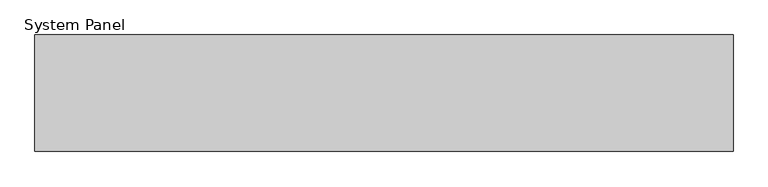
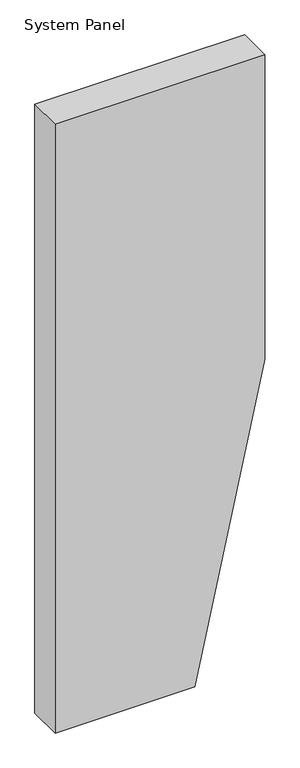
"""IFC4 building model written with IfcOpenShell, lengths in millimetres: plate geometry, System Panel : Equitilt 200mm Vertical - Plain RHEA - EPS-FR."""

from ifc_helpers import new_model, si_unit, frame, origin, place, context, project, spatial, polyline, outline, extrude, source, transform, mapped, element, save


def system_panel_820816a4(model_context):
    return source(origin(), model_context, "Body", "SweptSolid", [
        extrude(outline(polyline([(0.0, -600.0), (0.0, 200.0), (1839.9852118, 600.0), (3679.9704237, 600.0), (3679.9704237, -600.0), (0.0, -600.0)])), frame((0.0, -200.0, 0.0), z_axis=(0.0, 1.0, 0.0), x_axis=(0.0, 0.0, 1.0)), (0.0, 0.0, 1.0), 200.0),
    ])


if __name__ == "__main__":
    model = new_model("IFC4")
    model_context = context("Model", 3, world=origin())
    ifc_project = project(units=[si_unit("LENGTHUNIT", "METRE", prefix="MILLI")], contexts=[model_context])
    site = spatial("IfcSite", under=ifc_project)
    building = spatial("IfcBuilding", under=site)
    placement = place(None, origin())
    system_panel_shape = system_panel_820816a4(model_context)
    element("IfcPlate", 1, ObjectType="System Panel : Equitilt 200mm Vertical - Plain RHEA - EPS-FR", at=placement, inside=building, context=model_context, shape_type="MappedRepresentation", body=[
        mapped(system_panel_shape, transform((0.0, 0.0, 0.0), x_axis=(1.0, 0.0, 0.0), y_axis=(0.0, 1.0, 0.0), z_axis=(0.0, 0.0, 1.0))),
    ])
    save(model, "model.ifc")
